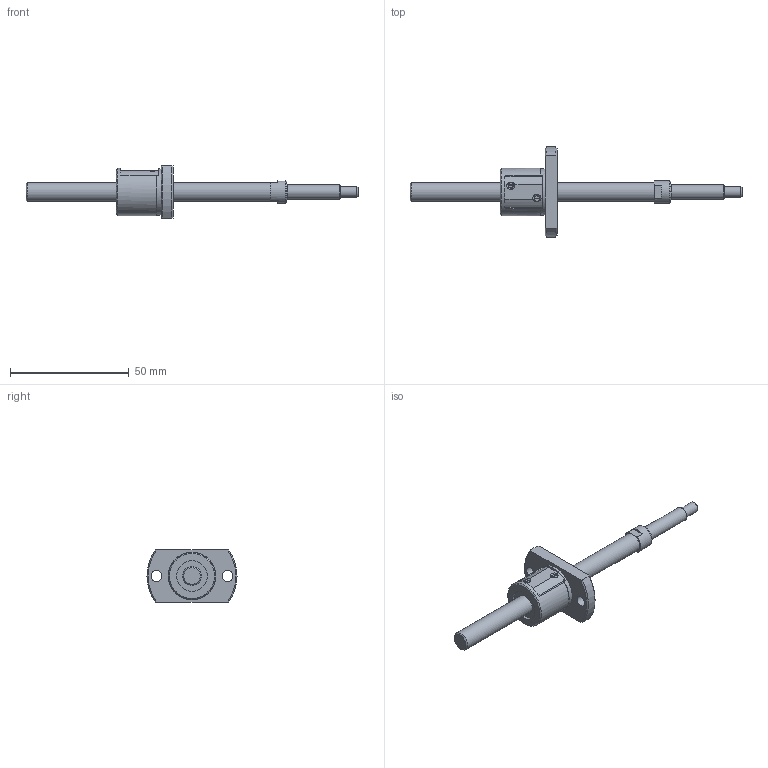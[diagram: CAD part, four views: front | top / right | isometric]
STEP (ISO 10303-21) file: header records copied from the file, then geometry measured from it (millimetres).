
FILE_DESCRIPTION( ( 'STEP AP214' ), '1' );
FILE_NAME( 'p:/temp/worker_8/2188_2204/app_69_12015063014044730619011260eae72_00_00_00_000/STEP/0-099R140C3A1X_38__2_14.stp', ' ', ( ' ' ), ( ' ' ), 'PSStep 15.0.47', 'PARTsolutions', ' ' );
FILE_SCHEMA( ( 'AUTOMOTIVE_DESIGN { 1 0 10303 214 1 1 1 1 }' ) );
Length unit declared in the file: millimetre
Products named in the file (3): 0-099R140C3A1X(38); _SG0802-99R140C3A_shaft; _SG0802_nut
Assembly tree (2 placements, depth 2):
  0-099R140C3A1X(38)
    _SG0802-99R140C3A_shaft
    _SG0802_nut
Bounding box: 140 x 38 x 22 mm (x, y, z)
Volume: 14583.3 mm3; surface area: 7367.7 mm2
Topology: 2 solids, 2 shells, 72 faces, 177 edges, 116 vertices
Faces by surface type: plane 35, cylinder 23, cone 13, torus 1
Full cylindrical faces by diameter (mm): 4.5 x3, 6 x1, 8 x2, 9.5 x1, 13 x2, 19.7 x1, 20 x1
Entity records: 2626 total; most frequent: CARTESIAN_POINT 401, DIRECTION 346, ORIENTED_EDGE 292, EDGE_CURVE 146, AXIS2_PLACEMENT_3D 143, EDGE_LOOP 106, VERTEX_POINT 106, FACE_OUTER_BOUND 84
